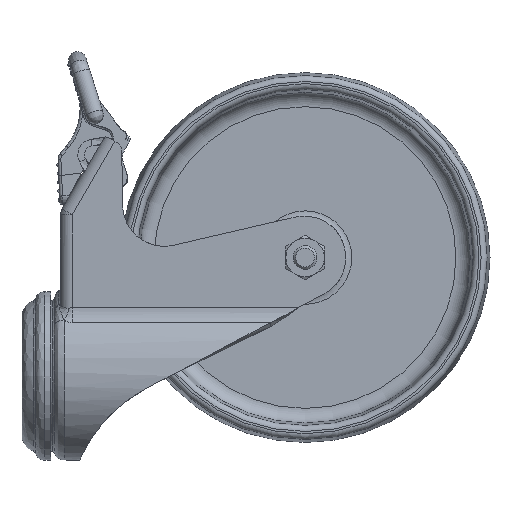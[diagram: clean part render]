
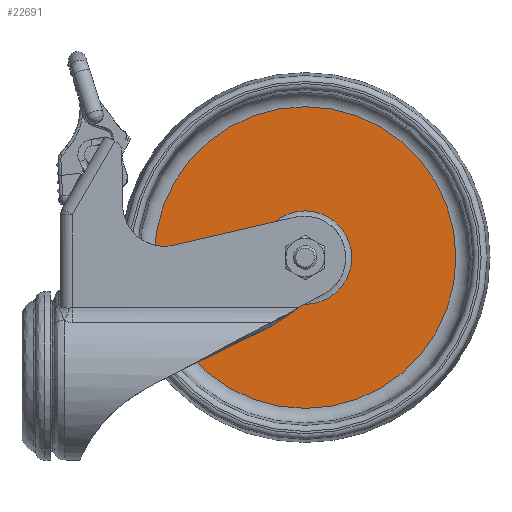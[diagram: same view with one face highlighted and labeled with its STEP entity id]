
A CAD part, left-side view. The second image highlights one B-rep face of the part: STEP entity #22691.
In plain terms, the highlighted planar face has unit normal (-1, 0, 0).
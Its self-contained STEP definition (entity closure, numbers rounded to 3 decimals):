
#22691 = ADVANCED_FACE ( 'NONE', ( #105500, #105530 ), #99103, .F. ) ;
#27674 = CARTESIAN_POINT ( 'NONE',  ( -3., 0., 0. ) ) ;
#27677 = CARTESIAN_POINT ( 'NONE',  ( -3., 0., 0. ) ) ;
#27681 = DIRECTION ( 'NONE',  ( -1., 0., 0. ) ) ;
#27682 = DIRECTION ( 'NONE',  ( 0., 0., 1. ) ) ;
#27684 = DIRECTION ( 'NONE',  ( -1., 0., 0. ) ) ;
#27685 = DIRECTION ( 'NONE',  ( 0., 0., 1. ) ) ;
#34581 = AXIS2_PLACEMENT_3D ( 'NONE', #27674, #27681, #27682 ) ;
#34583 = AXIS2_PLACEMENT_3D ( 'NONE', #27677, #27684, #27685 ) ;
#39481 = EDGE_LOOP ( 'NONE', ( #63667 ) ) ;
#39493 = EDGE_LOOP ( 'NONE', ( #63670 ) ) ;
#45884 = CIRCLE ( 'NONE', #34581, 15.789 ) ;
#45887 = CIRCLE ( 'NONE', #34583, 50.98 ) ;
#63667 = ORIENTED_EDGE ( 'NONE', *, *, #107269, .F. ) ;
#63670 = ORIENTED_EDGE ( 'NONE', *, *, #107270, .T. ) ;
#83207 = VERTEX_POINT ( 'NONE', #83208 ) ;
#83208 = CARTESIAN_POINT ( 'NONE',  ( -3., 0., 15.789 ) ) ;
#83209 = VERTEX_POINT ( 'NONE', #83210 ) ;
#83210 = CARTESIAN_POINT ( 'NONE',  ( -3., 0., 50.98 ) ) ;
#99101 = CARTESIAN_POINT ( 'NONE',  ( -3., 50.98, 0. ) ) ;
#99103 = PLANE ( 'NONE',  #102359 ) ;
#99124 = DIRECTION ( 'NONE',  ( 1., 0., 0. ) ) ;
#99126 = DIRECTION ( 'NONE',  ( 0., 0., -1. ) ) ;
#102359 = AXIS2_PLACEMENT_3D ( 'NONE', #99101, #99124, #99126 ) ;
#105500 = FACE_BOUND ( 'NONE', #39481, .T. ) ;
#105530 = FACE_OUTER_BOUND ( 'NONE', #39493, .T. ) ;
#107269 = EDGE_CURVE ( 'NONE', #83207, #83207, #45884, .T. ) ;
#107270 = EDGE_CURVE ( 'NONE', #83209, #83209, #45887, .T. ) ;
